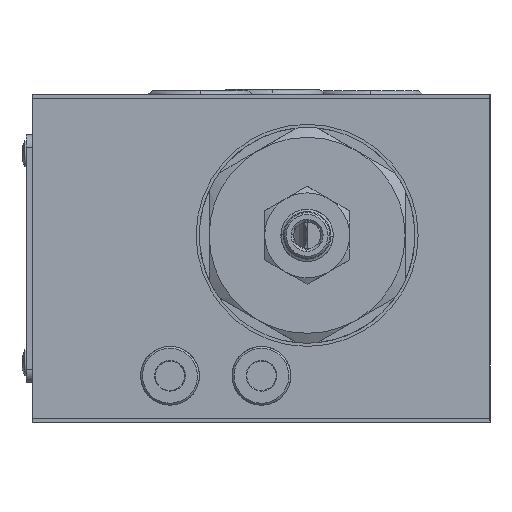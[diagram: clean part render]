
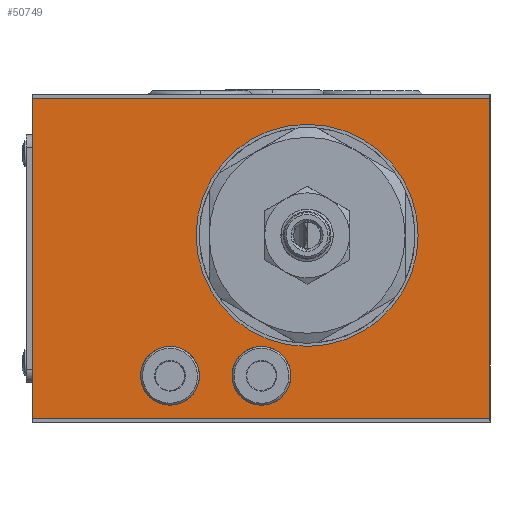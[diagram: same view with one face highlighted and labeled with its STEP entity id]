
A CAD part, left-side view. The second image highlights one B-rep face of the part: STEP entity #50749.
In plain terms, the highlighted planar face has unit normal (-1, 0, 0).
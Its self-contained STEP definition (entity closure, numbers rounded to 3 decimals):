
#246 = DIRECTION ( 'NONE',  ( 0., 0., -1. ) ) ;
#581 = DIRECTION ( 'NONE',  ( 0., 0., -1. ) ) ;
#1767 = CARTESIAN_POINT ( 'NONE',  ( -101., 7., -26. ) ) ;
#2093 = EDGE_CURVE ( 'NONE', #5888, #38387, #43265, .T. ) ;
#2829 = CARTESIAN_POINT ( 'NONE',  ( -101., 0., 17. ) ) ;
#2970 = DIRECTION ( 'NONE',  ( 0., 0., 1. ) ) ;
#3271 = AXIS2_PLACEMENT_3D ( 'NONE', #9305, #8914, #18017 ) ;
#5166 = VERTEX_POINT ( 'NONE', #51032 ) ;
#5692 = EDGE_CURVE ( 'NONE', #43634, #21862, #26123, .T. ) ;
#5780 = CARTESIAN_POINT ( 'NONE',  ( -101., 7., -17. ) ) ;
#5888 = VERTEX_POINT ( 'NONE', #1767 ) ;
#6556 = EDGE_CURVE ( 'NONE', #38387, #5888, #47441, .T. ) ;
#7470 = DIRECTION ( 'NONE',  ( 0., 0., -1. ) ) ;
#8673 = CARTESIAN_POINT ( 'NONE',  ( -101., -28., 21.6 ) ) ;
#8914 = DIRECTION ( 'NONE',  ( -1., 0., 0. ) ) ;
#9263 = CARTESIAN_POINT ( 'NONE',  ( -101., 42., 21.6 ) ) ;
#9305 = CARTESIAN_POINT ( 'NONE',  ( -101., 7., -21.5 ) ) ;
#10488 = CIRCLE ( 'NONE', #46594, 17. ) ;
#10563 = CIRCLE ( 'NONE', #53334, 4.5 ) ;
#11281 = AXIS2_PLACEMENT_3D ( 'NONE', #18636, #37177, #50089 ) ;
#11916 = ORIENTED_EDGE ( 'NONE', *, *, #39184, .T. ) ;
#12405 = CARTESIAN_POINT ( 'NONE',  ( -101., 0., -17. ) ) ;
#12553 = AXIS2_PLACEMENT_3D ( 'NONE', #39194, #24852, #29815 ) ;
#12610 = CARTESIAN_POINT ( 'NONE',  ( -101., 42., 21.6 ) ) ;
#13894 = CARTESIAN_POINT ( 'NONE',  ( -101., -52., -28. ) ) ;
#13989 = VERTEX_POINT ( 'NONE', #12405 ) ;
#14054 = DIRECTION ( 'NONE',  ( 0., 0., 1. ) ) ;
#18002 = FACE_OUTER_BOUND ( 'NONE', #45057, .T. ) ;
#18017 = DIRECTION ( 'NONE',  ( 0., 0., 1. ) ) ;
#18418 = CARTESIAN_POINT ( 'NONE',  ( -101., 0., 0. ) ) ;
#18527 = EDGE_LOOP ( 'NONE', ( #49225, #25618 ) ) ;
#18636 = CARTESIAN_POINT ( 'NONE',  ( -101., 0., 0. ) ) ;
#19630 = ORIENTED_EDGE ( 'NONE', *, *, #5692, .F. ) ;
#19887 = CIRCLE ( 'NONE', #11281, 17. ) ;
#19918 = ORIENTED_EDGE ( 'NONE', *, *, #42001, .T. ) ;
#19952 = LINE ( 'NONE', #36426, #58593 ) ;
#20102 = CIRCLE ( 'NONE', #12553, 4.5 ) ;
#20617 = ORIENTED_EDGE ( 'NONE', *, *, #25290, .F. ) ;
#21005 = VERTEX_POINT ( 'NONE', #55337 ) ;
#21179 = EDGE_LOOP ( 'NONE', ( #20617, #47096 ) ) ;
#21225 = VECTOR ( 'NONE', #7470, 1000. ) ;
#21688 = DIRECTION ( 'NONE',  ( -1., 0., 0. ) ) ;
#21847 = VECTOR ( 'NONE', #27333, 1000. ) ;
#21862 = VERTEX_POINT ( 'NONE', #39601 ) ;
#22132 = VECTOR ( 'NONE', #581, 1000. ) ;
#22286 = VERTEX_POINT ( 'NONE', #2829 ) ;
#24847 = EDGE_CURVE ( 'NONE', #21005, #5166, #20102, .T. ) ;
#24852 = DIRECTION ( 'NONE',  ( -1., 0., 0. ) ) ;
#25290 = EDGE_CURVE ( 'NONE', #5166, #21005, #10563, .T. ) ;
#25500 = ORIENTED_EDGE ( 'NONE', *, *, #48074, .T. ) ;
#25618 = ORIENTED_EDGE ( 'NONE', *, *, #2093, .F. ) ;
#26123 = LINE ( 'NONE', #13894, #21847 ) ;
#26366 = DIRECTION ( 'NONE',  ( -1., 0., 0. ) ) ;
#27222 = AXIS2_PLACEMENT_3D ( 'NONE', #12610, #21688, #2970 ) ;
#27333 = DIRECTION ( 'NONE',  ( 0., 1., 0. ) ) ;
#27996 = DIRECTION ( 'NONE',  ( 1., 0., 0. ) ) ;
#29277 = LINE ( 'NONE', #9263, #22132 ) ;
#29815 = DIRECTION ( 'NONE',  ( 0., 0., 1. ) ) ;
#32440 = DIRECTION ( 'NONE',  ( 0., 1., 0. ) ) ;
#32446 = VERTEX_POINT ( 'NONE', #54292 ) ;
#35473 = LINE ( 'NONE', #8673, #21225 ) ;
#36426 = CARTESIAN_POINT ( 'NONE',  ( -101., -52., 21. ) ) ;
#37177 = DIRECTION ( 'NONE',  ( 1., 0., 0. ) ) ;
#38030 = AXIS2_PLACEMENT_3D ( 'NONE', #50592, #50178, #14054 ) ;
#38387 = VERTEX_POINT ( 'NONE', #5780 ) ;
#39184 = EDGE_CURVE ( 'NONE', #13989, #22286, #10488, .T. ) ;
#39194 = CARTESIAN_POINT ( 'NONE',  ( -101., 21., -21.5 ) ) ;
#39247 = PLANE ( 'NONE',  #27222 ) ;
#39601 = CARTESIAN_POINT ( 'NONE',  ( -101., 42., -28. ) ) ;
#39880 = VERTEX_POINT ( 'NONE', #52379 ) ;
#40358 = CARTESIAN_POINT ( 'NONE',  ( -101., 21., -21.5 ) ) ;
#40895 = FACE_BOUND ( 'NONE', #21179, .T. ) ;
#42001 = EDGE_CURVE ( 'NONE', #32446, #21862, #29277, .T. ) ;
#42164 = EDGE_CURVE ( 'NONE', #39880, #32446, #19952, .T. ) ;
#43023 = ORIENTED_EDGE ( 'NONE', *, *, #42164, .T. ) ;
#43044 = EDGE_CURVE ( 'NONE', #39880, #43634, #35473, .T. ) ;
#43265 = CIRCLE ( 'NONE', #38030, 4.5 ) ;
#43634 = VERTEX_POINT ( 'NONE', #45690 ) ;
#45057 = EDGE_LOOP ( 'NONE', ( #19630, #50371, #43023, #19918 ) ) ;
#45690 = CARTESIAN_POINT ( 'NONE',  ( -101., -28., -28. ) ) ;
#46594 = AXIS2_PLACEMENT_3D ( 'NONE', #18418, #27996, #246 ) ;
#47096 = ORIENTED_EDGE ( 'NONE', *, *, #24847, .F. ) ;
#47441 = CIRCLE ( 'NONE', #3271, 4.5 ) ;
#48074 = EDGE_CURVE ( 'NONE', #22286, #13989, #19887, .T. ) ;
#49225 = ORIENTED_EDGE ( 'NONE', *, *, #6556, .F. ) ;
#49424 = DIRECTION ( 'NONE',  ( 0., 0., 1. ) ) ;
#50089 = DIRECTION ( 'NONE',  ( 0., 0., -1. ) ) ;
#50178 = DIRECTION ( 'NONE',  ( -1., 0., 0. ) ) ;
#50371 = ORIENTED_EDGE ( 'NONE', *, *, #43044, .F. ) ;
#50592 = CARTESIAN_POINT ( 'NONE',  ( -101., 7., -21.5 ) ) ;
#50749 = ADVANCED_FACE ( 'NONE', ( #40895, #51697, #18002, #55961 ), #39247, .T. ) ;
#50929 = EDGE_LOOP ( 'NONE', ( #11916, #25500 ) ) ;
#51032 = CARTESIAN_POINT ( 'NONE',  ( -101., 21., -17. ) ) ;
#51697 = FACE_BOUND ( 'NONE', #18527, .T. ) ;
#52379 = CARTESIAN_POINT ( 'NONE',  ( -101., -28., 21. ) ) ;
#53334 = AXIS2_PLACEMENT_3D ( 'NONE', #40358, #26366, #49424 ) ;
#54292 = CARTESIAN_POINT ( 'NONE',  ( -101., 42., 21. ) ) ;
#55337 = CARTESIAN_POINT ( 'NONE',  ( -101., 21., -26. ) ) ;
#55961 = FACE_BOUND ( 'NONE', #50929, .T. ) ;
#58593 = VECTOR ( 'NONE', #32440, 1000. ) ;
